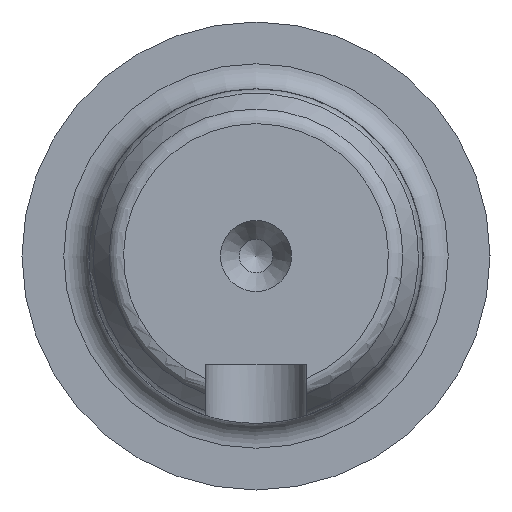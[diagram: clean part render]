
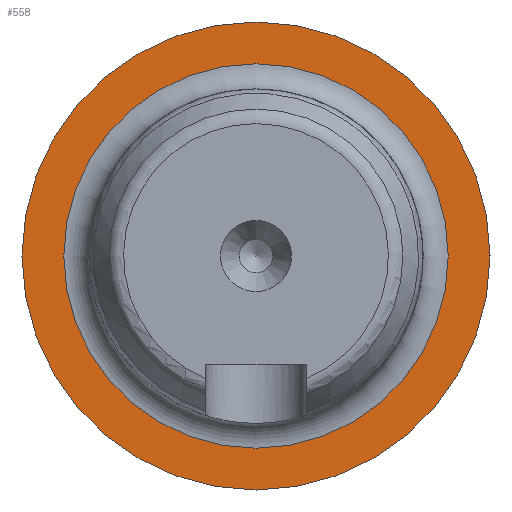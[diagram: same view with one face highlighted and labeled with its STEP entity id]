
A CAD part, left-side view. The second image highlights one B-rep face of the part: STEP entity #558.
In plain terms, the highlighted planar face has unit normal (-1, 0, 0).
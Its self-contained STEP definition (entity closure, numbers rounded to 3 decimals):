
#28=FACE_BOUND('',#116,.T.);
#80=FACE_OUTER_BOUND('',#115,.T.);
#115=EDGE_LOOP('',(#467));
#116=EDGE_LOOP('',(#468));
#215=CIRCLE('',#628,11.5);
#216=CIRCLE('',#630,14.);
#271=VERTEX_POINT('',#1061);
#272=VERTEX_POINT('',#1065);
#343=EDGE_CURVE('',#271,#271,#215,.T.);
#344=EDGE_CURVE('',#272,#272,#216,.T.);
#467=ORIENTED_EDGE('',*,*,#344,.F.);
#468=ORIENTED_EDGE('',*,*,#343,.T.);
#536=PLANE('',#629);
#558=ADVANCED_FACE('',(#80,#28),#536,.T.);
#628=AXIS2_PLACEMENT_3D('',#1063,#750,#751);
#629=AXIS2_PLACEMENT_3D('',#1064,#752,#753);
#630=AXIS2_PLACEMENT_3D('',#1066,#754,#755);
#750=DIRECTION('center_axis',(1.,0.,0.));
#751=DIRECTION('ref_axis',(0.,0.,-1.));
#752=DIRECTION('center_axis',(-1.,0.,0.));
#753=DIRECTION('ref_axis',(0.,0.,1.));
#754=DIRECTION('center_axis',(1.,0.,0.));
#755=DIRECTION('ref_axis',(0.,0.,-1.));
#1061=CARTESIAN_POINT('',(58.25,0.,11.5));
#1063=CARTESIAN_POINT('Origin',(58.25,0.,0.));
#1064=CARTESIAN_POINT('Origin',(58.25,0.,-14.));
#1065=CARTESIAN_POINT('',(58.25,0.,14.));
#1066=CARTESIAN_POINT('Origin',(58.25,0.,0.));
